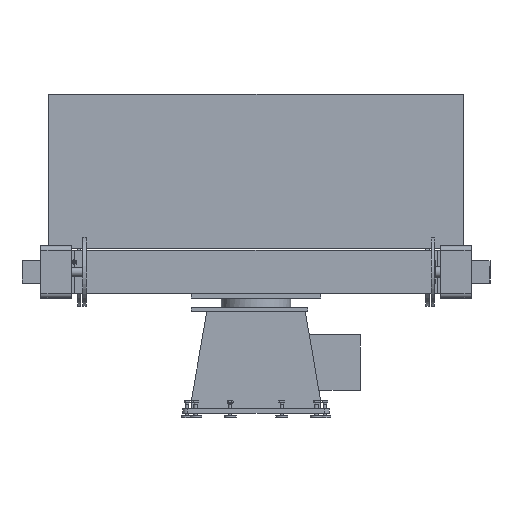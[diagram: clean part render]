
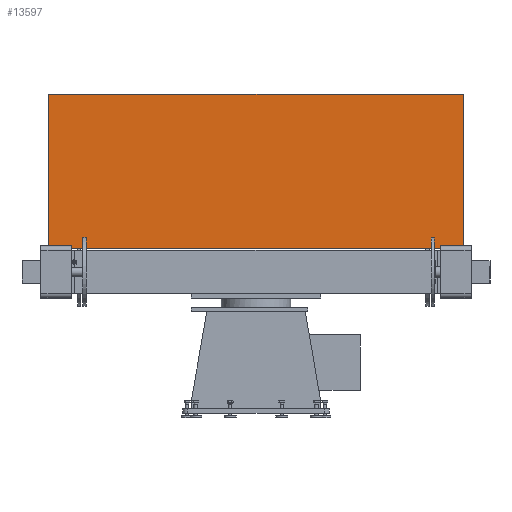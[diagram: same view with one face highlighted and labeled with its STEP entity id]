
A CAD part, front view. The second image highlights one B-rep face of the part: STEP entity #13597.
In plain terms, the highlighted planar face has unit normal (0, -1, 0) as drawn and (-1, 0, 0) by its records, which use the part's own axes.
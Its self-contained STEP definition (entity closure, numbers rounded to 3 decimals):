
#13104=CARTESIAN_POINT('',(-41.,-1157.5,5.));
#13105=VERTEX_POINT('',#13104);
#13114=CARTESIAN_POINT('',(-41.,1157.5,5.));
#13115=VERTEX_POINT('',#13114);
#13116=CARTESIAN_POINT('',(-41.,1157.5,5.));
#13117=DIRECTION('',(0.0,-1.0,0.0));
#13118=VECTOR('',#13117,2315.);
#13119=LINE('',#13116,#13118);
#13120=EDGE_CURVE('',#13115,#13105,#13119,.T.);
#13144=CARTESIAN_POINT('',(-41.,1202.5,5.));
#13145=VERTEX_POINT('',#13144);
#13146=CARTESIAN_POINT('',(-41.,1157.5,5.));
#13147=DIRECTION('',(0.0,1.0,0.0));
#13148=VECTOR('',#13147,45.0);
#13149=LINE('',#13146,#13148);
#13150=EDGE_CURVE('',#13115,#13145,#13149,.T.);
#13234=CARTESIAN_POINT('',(-41.,1202.5,899.));
#13235=VERTEX_POINT('',#13234);
#13251=CARTESIAN_POINT('',(-41.,1202.5,5.));
#13252=DIRECTION('',(0.0,0.0,1.0));
#13253=VECTOR('',#13252,894.);
#13254=LINE('',#13251,#13253);
#13255=EDGE_CURVE('',#13145,#13235,#13254,.T.);
#13471=CARTESIAN_POINT('',(-41.,-1202.5,5.));
#13472=VERTEX_POINT('',#13471);
#13479=CARTESIAN_POINT('',(-41.,-1202.5,5.));
#13480=DIRECTION('',(0.0,1.0,0.0));
#13481=VECTOR('',#13480,45.);
#13482=LINE('',#13479,#13481);
#13483=EDGE_CURVE('',#13472,#13105,#13482,.T.);
#13553=CARTESIAN_POINT('',(-41.,-1202.5,899.));
#13554=VERTEX_POINT('',#13553);
#13563=CARTESIAN_POINT('',(-41.,-1202.5,5.));
#13564=DIRECTION('',(0.0,0.0,1.0));
#13565=VECTOR('',#13564,894.0);
#13566=LINE('',#13563,#13565);
#13567=EDGE_CURVE('',#13472,#13554,#13566,.T.);
#13579=CARTESIAN_POINT('',(-41.,-1196.5,5.));
#13580=DIRECTION('',(-1.0,0.0,0.0));
#13581=DIRECTION('',(0.0,0.0,1.0));
#13582=AXIS2_PLACEMENT_3D('',#13579,#13580,#13581);
#13583=PLANE('',#13582);
#13584=CARTESIAN_POINT('',(-41.,1202.5,899.));
#13585=DIRECTION('',(0.0,-1.0,0.0));
#13586=VECTOR('',#13585,2405.);
#13587=LINE('',#13584,#13586);
#13588=EDGE_CURVE('',#13235,#13554,#13587,.T.);
#13589=ORIENTED_EDGE('',*,*,#13588,.F.);
#13590=ORIENTED_EDGE('',*,*,#13255,.F.);
#13591=ORIENTED_EDGE('',*,*,#13150,.F.);
#13592=ORIENTED_EDGE('',*,*,#13120,.T.);
#13593=ORIENTED_EDGE('',*,*,#13483,.F.);
#13594=ORIENTED_EDGE('',*,*,#13567,.T.);
#13595=EDGE_LOOP('',(#13589,#13590,#13591,#13592,#13593,#13594));
#13596=FACE_OUTER_BOUND('',#13595,.T.);
#13597=ADVANCED_FACE('',(#13596),#13583,.T.);
